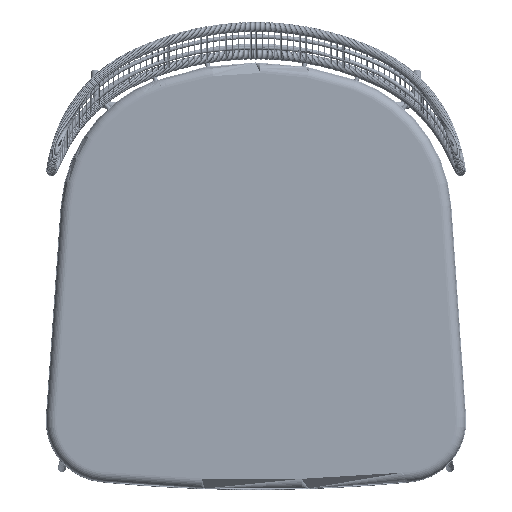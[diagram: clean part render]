
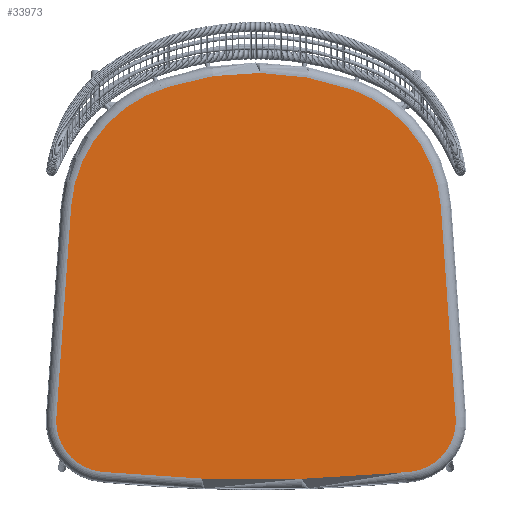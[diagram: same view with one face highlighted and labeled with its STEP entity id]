
A CAD part, top view. The second image highlights one B-rep face of the part: STEP entity #33973.
In plain terms, the highlighted planar face has unit normal (0, 0, 1).
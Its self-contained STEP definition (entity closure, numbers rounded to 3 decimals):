
#3258=PLANE('',#38108);
#4339=CIRCLE('',#38076,205.09);
#4342=CIRCLE('',#38081,540.364);
#4345=CIRCLE('',#38086,205.09);
#4347=CIRCLE('',#38089,6292.789);
#4350=CIRCLE('',#38095,540.364);
#4352=CIRCLE('',#38098,1146.034);
#8700=FACE_OUTER_BOUND('',#11246,.T.);
#11246=EDGE_LOOP('',(#27992,#27993,#27994,#27995,#27996,#27997,#27998,#27999,
#28000,#28001));
#13807=LINE('',#77573,#15225);
#13809=LINE('',#77618,#15227);
#13812=LINE('',#77633,#15230);
#13813=LINE('',#77652,#15231);
#15225=VECTOR('',#45959,0.44);
#15227=VECTOR('',#45973,0.44);
#15230=VECTOR('',#45992,0.44);
#15231=VECTOR('',#45997,0.44);
#17369=VERTEX_POINT('',#77551);
#17370=VERTEX_POINT('',#77553);
#17371=VERTEX_POINT('',#77572);
#17375=VERTEX_POINT('',#77594);
#17376=VERTEX_POINT('',#77596);
#17378=VERTEX_POINT('',#77616);
#17380=VERTEX_POINT('',#77622);
#17382=VERTEX_POINT('',#77632);
#17384=VERTEX_POINT('',#77650);
#17386=VERTEX_POINT('',#77656);
#20920=EDGE_CURVE('',#17369,#17370,#4339,.T.);
#20922=EDGE_CURVE('',#17370,#17371,#13807,.T.);
#20927=EDGE_CURVE('',#17375,#17376,#4342,.T.);
#20930=EDGE_CURVE('',#17378,#17375,#13809,.T.);
#20933=EDGE_CURVE('',#17380,#17378,#4345,.T.);
#20935=EDGE_CURVE('',#17371,#17380,#4347,.T.);
#20938=EDGE_CURVE('',#17376,#17382,#13812,.T.);
#20941=EDGE_CURVE('',#17384,#17369,#13813,.T.);
#20944=EDGE_CURVE('',#17386,#17384,#4350,.T.);
#20946=EDGE_CURVE('',#17382,#17386,#4352,.T.);
#27992=ORIENTED_EDGE('',*,*,#20927,.F.);
#27993=ORIENTED_EDGE('',*,*,#20930,.F.);
#27994=ORIENTED_EDGE('',*,*,#20933,.F.);
#27995=ORIENTED_EDGE('',*,*,#20935,.F.);
#27996=ORIENTED_EDGE('',*,*,#20922,.F.);
#27997=ORIENTED_EDGE('',*,*,#20920,.F.);
#27998=ORIENTED_EDGE('',*,*,#20941,.F.);
#27999=ORIENTED_EDGE('',*,*,#20944,.F.);
#28000=ORIENTED_EDGE('',*,*,#20946,.F.);
#28001=ORIENTED_EDGE('',*,*,#20938,.F.);
#33973=ADVANCED_FACE('',(#8700),#3258,.T.);
#38076=AXIS2_PLACEMENT_3D('',#77554,#45955,#45956);
#38081=AXIS2_PLACEMENT_3D('',#77597,#45967,#45968);
#38086=AXIS2_PLACEMENT_3D('',#77624,#45979,#45980);
#38089=AXIS2_PLACEMENT_3D('',#77627,#45985,#45986);
#38095=AXIS2_PLACEMENT_3D('',#77748,#46001,#46002);
#38098=AXIS2_PLACEMENT_3D('',#77751,#46007,#46008);
#38108=AXIS2_PLACEMENT_3D('',#77775,#46035,#46036);
#45955=DIRECTION('center_axis',(0.,0.,
-1.));
#45956=DIRECTION('ref_axis',(0.77,-0.638,0.));
#45959=DIRECTION('',(0.099,-0.995,0.));
#45967=DIRECTION('center_axis',(0.,0.,
-1.));
#45968=DIRECTION('ref_axis',(-0.8,0.599,0.));
#45973=DIRECTION('',(0.07,0.998,0.));
#45979=DIRECTION('center_axis',(0.,0.,
-1.));
#45980=DIRECTION('ref_axis',(-0.764,-0.645,0.));
#45985=DIRECTION('center_axis',(0.,0.,
-1.));
#45986=DIRECTION('ref_axis',(0.,-1.,0.));
#45992=DIRECTION('',(-0.341,0.94,0.));
#45997=DIRECTION('',(0.07,-0.998,0.));
#46001=DIRECTION('center_axis',(0.,0.,
-1.));
#46002=DIRECTION('ref_axis',(0.798,0.603,0.));
#46007=DIRECTION('center_axis',(0.,0.,
-1.));
#46008=DIRECTION('ref_axis',(-0.002,1.,0.));
#46035=DIRECTION('center_axis',(0.,0.,
1.));
#46036=DIRECTION('ref_axis',(-1.,0.,0.));
#77551=CARTESIAN_POINT('',(798.237,-528.359,204.199));
#77553=CARTESIAN_POINT('',(578.535,-747.195,204.199));
#77554=CARTESIAN_POINT('Origin',(593.646,-542.662,204.199));
#77572=CARTESIAN_POINT('',(578.826,-750.128,204.199));
#77573=CARTESIAN_POINT('',(539.054,-348.76,204.199));
#77594=CARTESIAN_POINT('',(-752.057,323.253,204.199));
#77596=CARTESIAN_POINT('',(-363.442,804.561,204.199));
#77597=CARTESIAN_POINT('Origin',(-213.01,285.559,204.199));
#77616=CARTESIAN_POINT('',(-811.608,-528.354,204.199));
#77618=CARTESIAN_POINT('',(-760.017,209.425,204.199));
#77622=CARTESIAN_POINT('',(-627.239,-746.754,204.199));
#77624=CARTESIAN_POINT('Origin',(-607.017,-542.663,204.199));
#77627=CARTESIAN_POINT('Origin',(-6.686,5515.362,204.199));
#77632=CARTESIAN_POINT('',(-363.651,805.138,204.199));
#77633=CARTESIAN_POINT('',(-227.679,429.695,204.199));
#77650=CARTESIAN_POINT('',(738.686,323.254,204.199));
#77652=CARTESIAN_POINT('',(776.421,-216.382,204.199));
#77656=CARTESIAN_POINT('',(383.565,793.659,204.199));
#77748=CARTESIAN_POINT('Origin',(199.639,285.56,204.199));
#77751=CARTESIAN_POINT('Origin',(-6.685,-283.884,204.199));
#77775=CARTESIAN_POINT('Origin',(-6.686,42.362,204.199));
